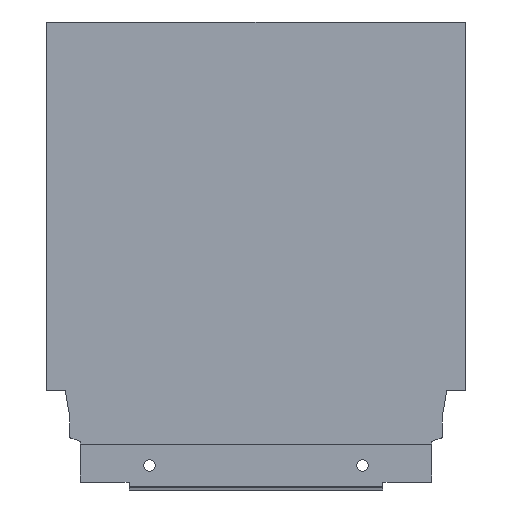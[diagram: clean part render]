
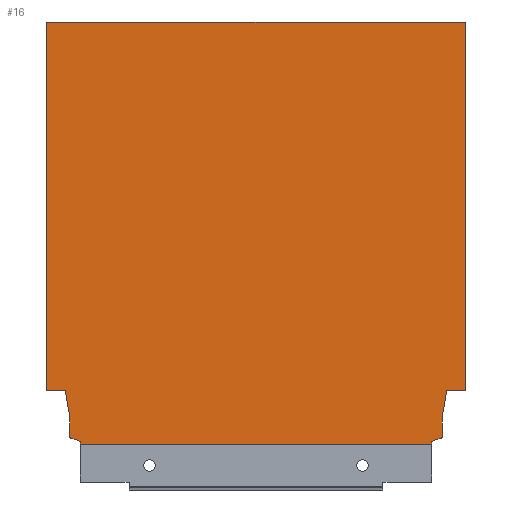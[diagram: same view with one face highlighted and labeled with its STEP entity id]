
A CAD part, top view. The second image highlights one B-rep face of the part: STEP entity #16.
In plain terms, the highlighted planar face has unit normal (0, 0, 1).
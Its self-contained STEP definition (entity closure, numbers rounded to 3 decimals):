
#1 = DIRECTION ( 'NONE',  ( 1., 0., 0. ) ) ;
#2 = CARTESIAN_POINT ( 'NONE',  ( -163., 164.7, 7.5 ) ) ;
#4 = DIRECTION ( 'NONE',  ( -1., 0., 0. ) ) ;
#5 = CARTESIAN_POINT ( 'NONE',  ( -168., 21.2, 7.5 ) ) ;
#6 = DIRECTION ( 'NONE',  ( -1., 0., 0. ) ) ;
#7 = CARTESIAN_POINT ( 'NONE',  ( 0., 21.2, 7.5 ) ) ;
#16 = ADVANCED_FACE ( 'NONE', ( #1349 ), #890, .T. ) ;
#42 = DIRECTION ( 'NONE',  ( -0.174, -0.985, 0. ) ) ;
#43 = CARTESIAN_POINT ( 'NONE',  ( -7.06, 21.2, 7.5 ) ) ;
#44 = DIRECTION ( 'NONE',  ( 0., 1., 0. ) ) ;
#45 = CARTESIAN_POINT ( 'NONE',  ( -149.996, 1.146, 7.5 ) ) ;
#46 = DIRECTION ( 'NONE',  ( -0.94, 0.342, 0. ) ) ;
#47 = CARTESIAN_POINT ( 'NONE',  ( -154.1, 2.64, 7.5 ) ) ;
#48 = DIRECTION ( 'NONE',  ( 0., -1., 0. ) ) ;
#51 = CARTESIAN_POINT ( 'NONE',  ( -8.9, 10.765, 7.5 ) ) ;
#52 = DIRECTION ( 'NONE',  ( -0.174, 0.985, 0. ) ) ;
#55 = DIRECTION ( 'NONE',  ( 0., -1., 0. ) ) ;
#57 = CARTESIAN_POINT ( 'NONE',  ( -163., 0., 7.5 ) ) ;
#64 = CARTESIAN_POINT ( 'NONE',  ( -13.004, 0., 7.5 ) ) ;
#76 = CARTESIAN_POINT ( 'NONE',  ( -154.1, 2.64, 7.5 ) ) ;
#80 = CARTESIAN_POINT ( 'NONE',  ( -154.1, 10.765, 7.5 ) ) ;
#82 = CARTESIAN_POINT ( 'NONE',  ( 0., 164.7, 7.5 ) ) ;
#92 = CARTESIAN_POINT ( 'NONE',  ( -8.9, 2.64, 7.5 ) ) ;
#99 = CARTESIAN_POINT ( 'NONE',  ( -7.06, 21.2, 7.5 ) ) ;
#103 = CARTESIAN_POINT ( 'NONE',  ( -163., 21.2, 7.5 ) ) ;
#111 = CARTESIAN_POINT ( 'NONE',  ( -149.996, 0., 7.5 ) ) ;
#115 = CARTESIAN_POINT ( 'NONE',  ( -13.004, 1.146, 7.5 ) ) ;
#117 = CARTESIAN_POINT ( 'NONE',  ( -149.996, 1.146, 7.5 ) ) ;
#121 = CARTESIAN_POINT ( 'NONE',  ( -163., 164.7, 7.5 ) ) ;
#130 = CARTESIAN_POINT ( 'NONE',  ( 0., 21.2, 7.5 ) ) ;
#131 = CARTESIAN_POINT ( 'NONE',  ( -155.94, 21.2, 7.5 ) ) ;
#318 = VECTOR ( 'NONE', #1140, 1000. ) ;
#319 = VECTOR ( 'NONE', #48, 1000. ) ;
#320 = VECTOR ( 'NONE', #44, 1000. ) ;
#321 = LINE ( 'NONE', #43, #322 ) ;
#322 = VECTOR ( 'NONE', #42, 1000. ) ;
#325 = LINE ( 'NONE', #7, #326 ) ;
#326 = VECTOR ( 'NONE', #6, 1000. ) ;
#327 = LINE ( 'NONE', #5, #328 ) ;
#328 = VECTOR ( 'NONE', #4, 1000. ) ;
#329 = LINE ( 'NONE', #2, #330 ) ;
#330 = VECTOR ( 'NONE', #1, 1000. ) ;
#331 = VECTOR ( 'NONE', #1197, 1000. ) ;
#332 = LINE ( 'NONE', #1202, #343 ) ;
#335 = VECTOR ( 'NONE', #1182, 1000. ) ;
#339 = VECTOR ( 'NONE', #1200, 1000. ) ;
#343 = VECTOR ( 'NONE', #1194, 1000. ) ;
#511 = EDGE_LOOP ( 'NONE', ( #826, #825, #824, #823, #822, #821, #811, #839, #815, #829, #813, #812, #800, #809 ) ) ;
#618 = CARTESIAN_POINT ( 'NONE',  ( -8.9, 10.765, 7.5 ) ) ;
#645 = LINE ( 'NONE', #1154, #318 ) ;
#690 = AXIS2_PLACEMENT_3D ( 'NONE', #883, #911, #910 ) ;
#741 = LINE ( 'NONE', #1139, #861 ) ;
#800 = ORIENTED_EDGE ( 'NONE', *, *, #948, .F. ) ;
#809 = ORIENTED_EDGE ( 'NONE', *, *, #941, .F. ) ;
#811 = ORIENTED_EDGE ( 'NONE', *, *, #927, .T. ) ;
#812 = ORIENTED_EDGE ( 'NONE', *, *, #939, .F. ) ;
#813 = ORIENTED_EDGE ( 'NONE', *, *, #937, .F. ) ;
#815 = ORIENTED_EDGE ( 'NONE', *, *, #946, .F. ) ;
#821 = ORIENTED_EDGE ( 'NONE', *, *, #936, .F. ) ;
#822 = ORIENTED_EDGE ( 'NONE', *, *, #931, .F. ) ;
#823 = ORIENTED_EDGE ( 'NONE', *, *, #942, .F. ) ;
#824 = ORIENTED_EDGE ( 'NONE', *, *, #929, .F. ) ;
#825 = ORIENTED_EDGE ( 'NONE', *, *, #940, .F. ) ;
#826 = ORIENTED_EDGE ( 'NONE', *, *, #933, .T. ) ;
#829 = ORIENTED_EDGE ( 'NONE', *, *, #935, .F. ) ;
#839 = ORIENTED_EDGE ( 'NONE', *, *, #944, .F. ) ;
#848 = LINE ( 'NONE', #1189, #339 ) ;
#849 = LINE ( 'NONE', #1144, #331 ) ;
#850 = VECTOR ( 'NONE', #55, 1000. ) ;
#851 = LINE ( 'NONE', #57, #850 ) ;
#854 = VECTOR ( 'NONE', #46, 1000. ) ;
#855 = LINE ( 'NONE', #47, #854 ) ;
#857 = LINE ( 'NONE', #51, #319 ) ;
#860 = LINE ( 'NONE', #1201, #335 ) ;
#861 = VECTOR ( 'NONE', #52, 1000. ) ;
#883 = CARTESIAN_POINT ( 'NONE',  ( -163., 0., 7.5 ) ) ;
#890 = PLANE ( 'NONE',  #690 ) ;
#910 = DIRECTION ( 'NONE',  ( 1., 0., 0. ) ) ;
#911 = DIRECTION ( 'NONE',  ( 0., 0., 1. ) ) ;
#927 = EDGE_CURVE ( 'NONE', #1246, #1260, #645, .T. ) ;
#929 = EDGE_CURVE ( 'NONE', #1267, #1233, #741, .T. ) ;
#931 = EDGE_CURVE ( 'NONE', #1242, #1266, #855, .T. ) ;
#933 = EDGE_CURVE ( 'NONE', #1238, #1251, #851, .T. ) ;
#935 = EDGE_CURVE ( 'NONE', #1284, #1259, #857, .T. ) ;
#936 = EDGE_CURVE ( 'NONE', #1246, #1242, #1472, .T. ) ;
#937 = EDGE_CURVE ( 'NONE', #1273, #1284, #321, .T. ) ;
#939 = EDGE_CURVE ( 'NONE', #1234, #1273, #325, .T. ) ;
#940 = EDGE_CURVE ( 'NONE', #1233, #1251, #327, .T. ) ;
#941 = EDGE_CURVE ( 'NONE', #1238, #1270, #329, .T. ) ;
#942 = EDGE_CURVE ( 'NONE', #1266, #1267, #849, .T. ) ;
#944 = EDGE_CURVE ( 'NONE', #1243, #1260, #860, .T. ) ;
#946 = EDGE_CURVE ( 'NONE', #1259, #1243, #848, .T. ) ;
#948 = EDGE_CURVE ( 'NONE', #1270, #1234, #332, .T. ) ;
#1139 = CARTESIAN_POINT ( 'NONE',  ( -155.94, 21.2, 7.5 ) ) ;
#1140 = DIRECTION ( 'NONE',  ( 1., 0., 0. ) ) ;
#1144 = CARTESIAN_POINT ( 'NONE',  ( -154.1, 10.765, 7.5 ) ) ;
#1154 = CARTESIAN_POINT ( 'NONE',  ( -163., 0., 7.5 ) ) ;
#1182 = DIRECTION ( 'NONE',  ( 0., -1., 0. ) ) ;
#1189 = CARTESIAN_POINT ( 'NONE',  ( -8.9, 2.64, 7.5 ) ) ;
#1194 = DIRECTION ( 'NONE',  ( 0., -1., 0. ) ) ;
#1197 = DIRECTION ( 'NONE',  ( 0., 1., 0. ) ) ;
#1200 = DIRECTION ( 'NONE',  ( -0.94, -0.342, 0. ) ) ;
#1201 = CARTESIAN_POINT ( 'NONE',  ( -13.004, 1.146, 7.5 ) ) ;
#1202 = CARTESIAN_POINT ( 'NONE',  ( 0., 0., 7.5 ) ) ;
#1233 = VERTEX_POINT ( 'NONE', #131 ) ;
#1234 = VERTEX_POINT ( 'NONE', #130 ) ;
#1238 = VERTEX_POINT ( 'NONE', #121 ) ;
#1242 = VERTEX_POINT ( 'NONE', #117 ) ;
#1243 = VERTEX_POINT ( 'NONE', #115 ) ;
#1246 = VERTEX_POINT ( 'NONE', #111 ) ;
#1251 = VERTEX_POINT ( 'NONE', #103 ) ;
#1259 = VERTEX_POINT ( 'NONE', #92 ) ;
#1260 = VERTEX_POINT ( 'NONE', #64 ) ;
#1266 = VERTEX_POINT ( 'NONE', #76 ) ;
#1267 = VERTEX_POINT ( 'NONE', #80 ) ;
#1270 = VERTEX_POINT ( 'NONE', #82 ) ;
#1273 = VERTEX_POINT ( 'NONE', #99 ) ;
#1284 = VERTEX_POINT ( 'NONE', #618 ) ;
#1349 = FACE_OUTER_BOUND ( 'NONE', #511, .T. ) ;
#1472 = LINE ( 'NONE', #45, #320 ) ;
